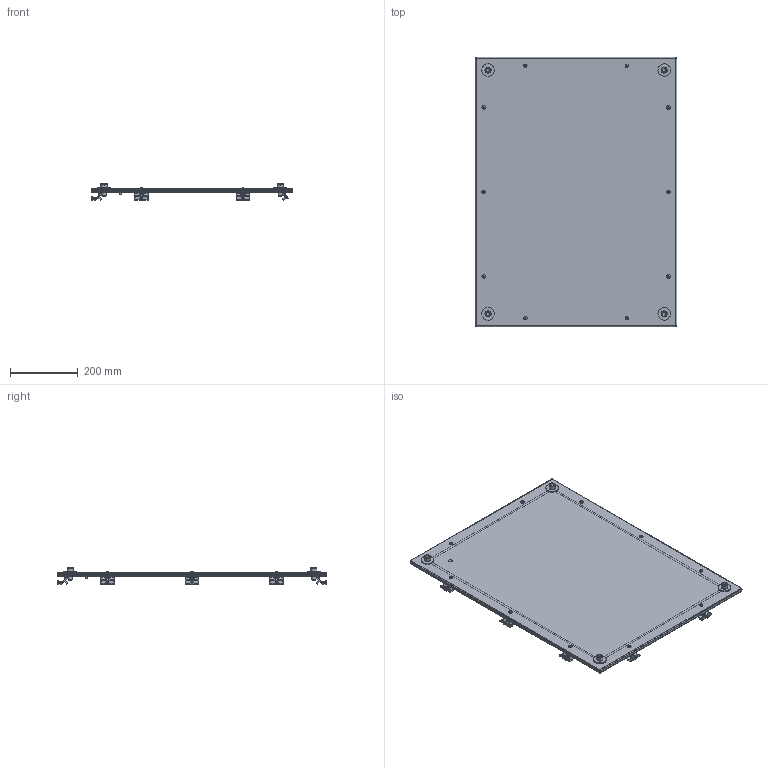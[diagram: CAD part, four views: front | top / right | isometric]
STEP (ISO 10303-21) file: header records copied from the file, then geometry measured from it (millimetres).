
FILE_DESCRIPTION(('STEP AP203'), '1');
FILE_NAME('3301 Êðûøà ÑÁ', '', ('UNSPECIFIED'), ('UNSPECIFIED'), 'C3D Converter', 'C3D Toolkit', '');
FILE_SCHEMA(('CONFIG_CONTROL_DESIGN'));
Length unit declared in the file: millimetre
Products named in the file (14): 3301.80.60; 3310; 3311; 3009.04.ПН; 3009.04.01.ПН; 3009.04.П-К; 3009.04.01.П-К
Assembly tree (50 placements, depth 3):
  3301.80.60
    3310
      3311
      (unnamed)
    (unnamed)  x10
    (unnamed)  x10
    (unnamed)  x4
    (unnamed)  x4
    3009.04.ПН  x3
      3009.04.01.ПН
      (unnamed)
      (unnamed)
    3009.04.П-К  x7
      3009.04.01.П-К
      (unnamed)
      (unnamed)
Bounding box: 596.5 x 797 x 49 mm (x, y, z)
Volume: 911687.6 mm3; surface area: 1157103.9 mm2
Topology: 78 solids, 78 shells, 2508 faces, 6610 edges, 4344 vertices
Faces by surface type: plane 1708, cylinder 668, cone 93, sphere 18, torus 17, bspline 4
Full cylindrical faces by diameter (mm): 4.134 x17, 5 x30, 5.5 x10, 5.8 x17, 6 x1, 7.5 x10, 8.3 x20, 8.5 x10, 9.2 x20, 10 x10, 11.5 x2, 12 x4, 13.5 x4, 14 x4, 18 x4, 37 x4
Entity records: 17758 total; most frequent: CARTESIAN_POINT 6253, DIRECTION 2105, ORIENTED_EDGE 1850, EDGE_CURVE 925, AXIS2_PLACEMENT_3D 748, LINE 609, VECTOR 609, VERTEX_POINT 592
